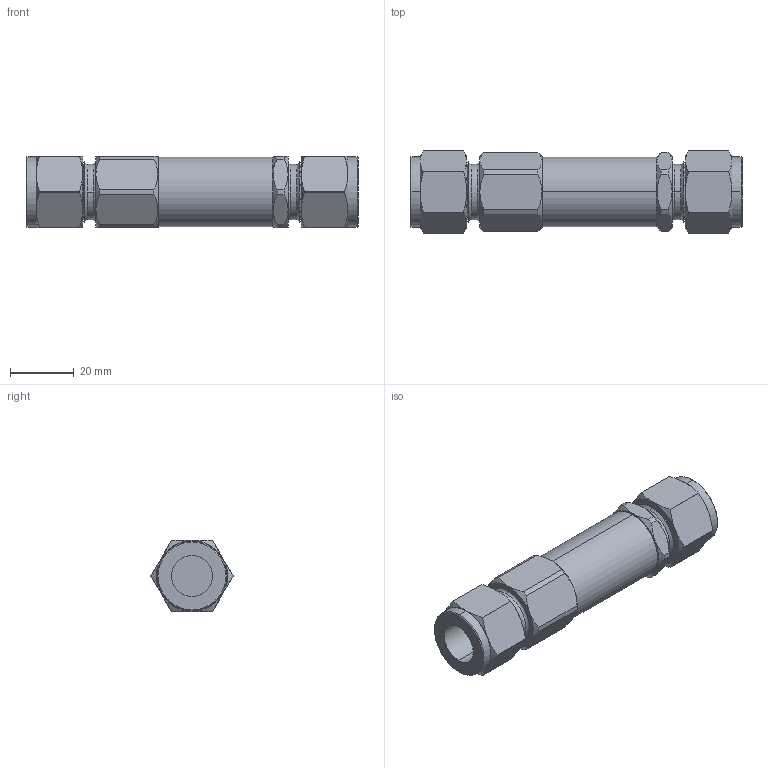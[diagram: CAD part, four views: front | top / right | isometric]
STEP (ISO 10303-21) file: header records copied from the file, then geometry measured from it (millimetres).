
FILE_DESCRIPTION (( 'STEP AP203' ), '1' );
FILE_NAME ('IRV8T-8T-V-110.STEP', '2013-09-25T11:58:46', ( '' ), ( '' ), 'SwSTEP 2.0', 'SolidWorks 2011', '' );
FILE_SCHEMA (( 'CONFIG_CONTROL_DESIGN' ));
Length unit declared in the file: inch
Products named in the file (2): IRV8T-8T-V-110; Part4^IRV8T-8T-V-110_CM
Assembly tree (1 placements, depth 2):
  IRV8T-8T-V-110
    Part4^IRV8T-8T-V-110_CM
Bounding box: 103.78 x 25.65 x 22.23 mm (x, y, z)
Volume: 37863.9 mm3; surface area: 9809.6 mm2
Topology: 1 solids, 1 shells, 148 faces, 336 edges, 200 vertices
Faces by surface type: cone 62, cylinder 46, plane 36, torus 4
Entity records: 4656 total; most frequent: CARTESIAN_POINT 1216, DIRECTION 700, ORIENTED_EDGE 672, EDGE_CURVE 336, AXIS2_PLACEMENT_3D 308, VERTEX_POINT 200, EDGE_LOOP 158, CIRCLE 156
